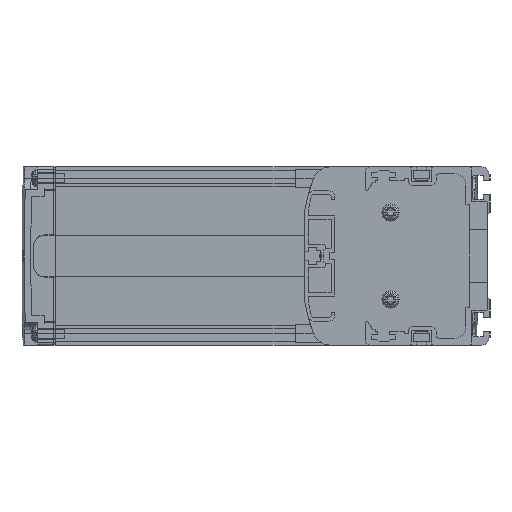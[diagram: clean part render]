
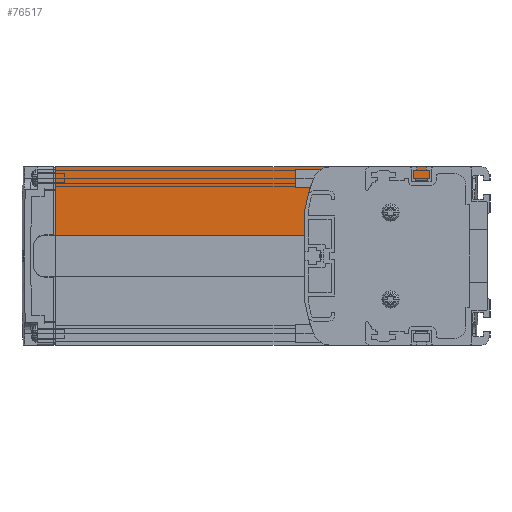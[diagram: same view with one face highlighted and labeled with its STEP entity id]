
A CAD part, left-side view. The second image highlights one B-rep face of the part: STEP entity #76517.
In plain terms, the highlighted planar face has unit normal (-1, 0, 0).
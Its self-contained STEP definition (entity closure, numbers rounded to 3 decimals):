
#74458=DIRECTION('',(0.,-1.,0.));
#74459=VECTOR('',#74458,51.);
#74460=CARTESIAN_POINT('',(3.,71.,27.));
#74461=LINE('',#74460,#74459);
#75107=DIRECTION('',(0.,-1.,0.));
#75108=VECTOR('',#75107,170.);
#75109=CARTESIAN_POINT('',(3.,190.,39.));
#75110=LINE('',#75109,#75108);
#75125=DIRECTION('',(0.,0.,-1.));
#75126=VECTOR('',#75125,29.9);
#75127=CARTESIAN_POINT('',(3.,190.,39.));
#75128=LINE('',#75127,#75126);
#75129=DIRECTION('',(0.,0.,1.));
#75130=VECTOR('',#75129,12.);
#75131=CARTESIAN_POINT('',(3.,20.,27.));
#75132=LINE('',#75131,#75130);
#75133=DIRECTION('',(0.,0.,1.));
#75134=VECTOR('',#75133,17.9);
#75135=CARTESIAN_POINT('',(3.,71.,9.1));
#75136=LINE('',#75135,#75134);
#75243=DIRECTION('',(0.,-1.,0.));
#75244=VECTOR('',#75243,119.);
#75245=CARTESIAN_POINT('',(3.,190.,9.1));
#75246=LINE('',#75245,#75244);
#75330=CARTESIAN_POINT('',(3.,20.,27.));
#75332=VERTEX_POINT('',#75330);
#75424=CARTESIAN_POINT('',(3.,20.,39.));
#75425=VERTEX_POINT('',#75424);
#75498=CARTESIAN_POINT('',(3.,190.,39.));
#75499=VERTEX_POINT('',#75498);
#75500=CARTESIAN_POINT('',(3.,190.,9.1));
#75501=VERTEX_POINT('',#75500);
#75562=CARTESIAN_POINT('',(3.,71.,27.));
#75563=VERTEX_POINT('',#75562);
#75564=CARTESIAN_POINT('',(3.,71.,9.1));
#75565=VERTEX_POINT('',#75564);
#76502=CARTESIAN_POINT('',(3.,105.,24.05));
#76503=DIRECTION('',(1.,0.,0.));
#76504=DIRECTION('',(0.,0.,1.));
#76505=AXIS2_PLACEMENT_3D('',#76502,#76503,#76504);
#76506=PLANE('',#76505);
#76507=ORIENTED_EDGE('',*,*,#75748,.F.);
#76509=ORIENTED_EDGE('',*,*,#76508,.F.);
#76511=ORIENTED_EDGE('',*,*,#76510,.F.);
#76512=ORIENTED_EDGE('',*,*,#76076,.F.);
#76513=ORIENTED_EDGE('',*,*,#76490,.T.);
#76514=ORIENTED_EDGE('',*,*,#75617,.F.);
#76515=EDGE_LOOP('',(#76507,#76509,#76511,#76512,#76513,#76514));
#76516=FACE_OUTER_BOUND('',#76515,.F.);
#76517=ADVANCED_FACE('',(#76516),#76506,.F.);
#75617=EDGE_CURVE('',#75332,#75425,#75132,.T.);
#75748=EDGE_CURVE('',#75563,#75332,#74461,.T.);
#76076=EDGE_CURVE('',#75499,#75501,#75128,.T.);
#76490=EDGE_CURVE('',#75499,#75425,#75110,.T.);
#76508=EDGE_CURVE('',#75565,#75563,#75136,.T.);
#76510=EDGE_CURVE('',#75501,#75565,#75246,.T.);
